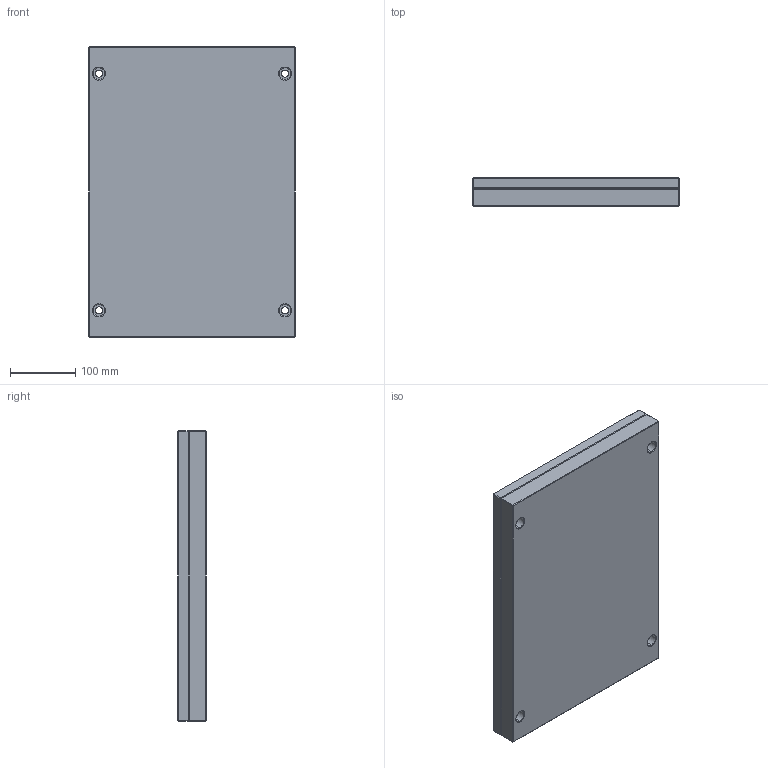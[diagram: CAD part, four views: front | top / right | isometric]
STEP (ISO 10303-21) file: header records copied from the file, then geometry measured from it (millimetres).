
FILE_DESCRIPTION (( 'STEP AP214' ), '1' );
FILE_NAME ('CPE-446x446.STEP', '2020-04-06T14:57:30', ( 'August' ), ( '' ), 'SwSTEP 2.0', 'SolidWorks 2018', '' );
FILE_SCHEMA (( 'AUTOMOTIVE_DESIGN' ));
Length unit declared in the file: millimetre
Products named in the file (1): CPE-446x446
Bounding box: 318 x 44 x 446 mm (x, y, z)
Volume: 6212091.6 mm3; surface area: 636356.6 mm2
Topology: 2 solids, 2 shells, 96 faces, 200 edges, 112 vertices
Faces by surface type: plane 56, cylinder 24, cone 16
Entity records: 2551 total; most frequent: DIRECTION 458, CARTESIAN_POINT 409, ORIENTED_EDGE 400, EDGE_CURVE 200, AXIS2_PLACEMENT_3D 161, LINE 136, VECTOR 136, EDGE_LOOP 116
